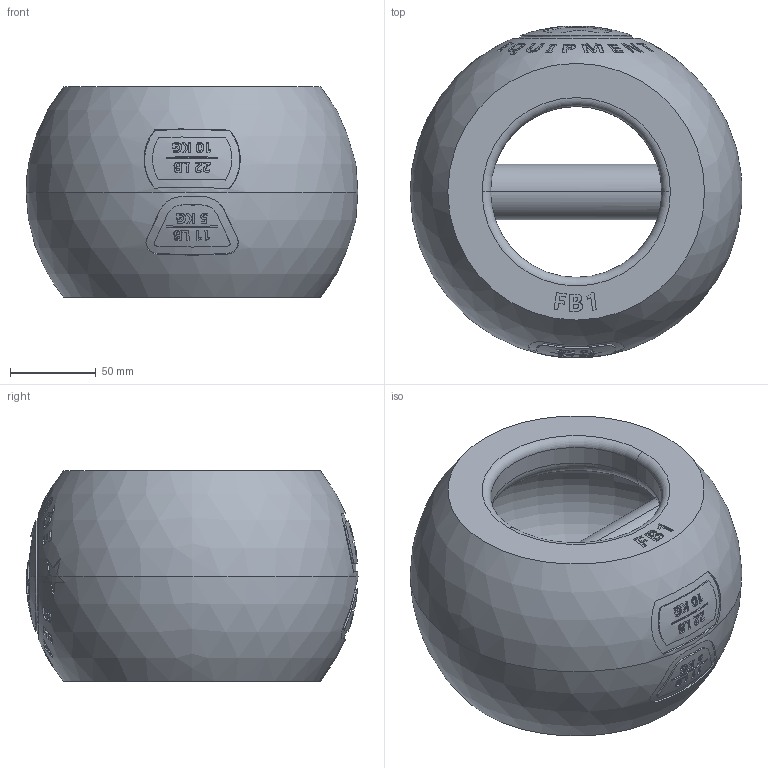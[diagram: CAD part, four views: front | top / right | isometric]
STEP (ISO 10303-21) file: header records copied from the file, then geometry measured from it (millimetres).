
FILE_DESCRIPTION (( 'STEP AP214' ), '1' );
FILE_NAME ('Parte inferior.STEP', '2024-11-22T19:50:51', ( '' ), ( '' ), 'SwSTEP 2.0', 'SolidWorks 2020', '' );
FILE_SCHEMA (( 'AUTOMOTIVE_DESIGN' ));
Length unit declared in the file: millimetre
Products named in the file (1): Parte inferior
Bounding box: 193.76 x 193.94 x 123.03 mm (x, y, z)
Volume: 1412050.7 mm3; surface area: 181761.1 mm2
Topology: 1 solids, 1 shells, 651 faces, 1755 edges, 1168 vertices
Faces by surface type: bspline 523, sphere 75, plane 33, cylinder 12, torus 8
Entity records: 98988 total; most frequent: CARTESIAN_POINT 87324, ORIENTED_EDGE 3504, EDGE_CURVE 1752, B_SPLINE_CURVE_WITH_KNOTS 1596, VERTEX_POINT 1167, EDGE_LOOP 719, ADVANCED_FACE 651, FACE_OUTER_BOUND 651
